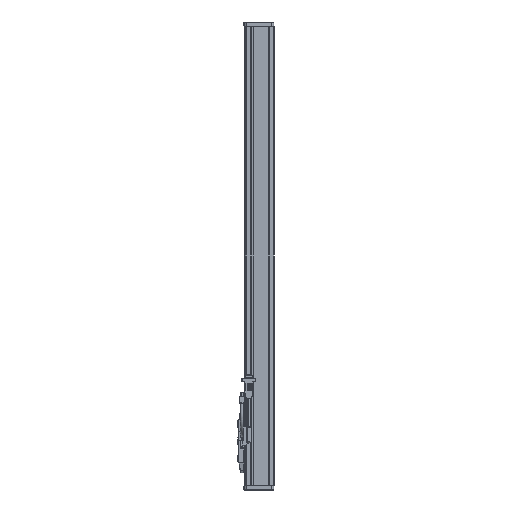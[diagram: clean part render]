
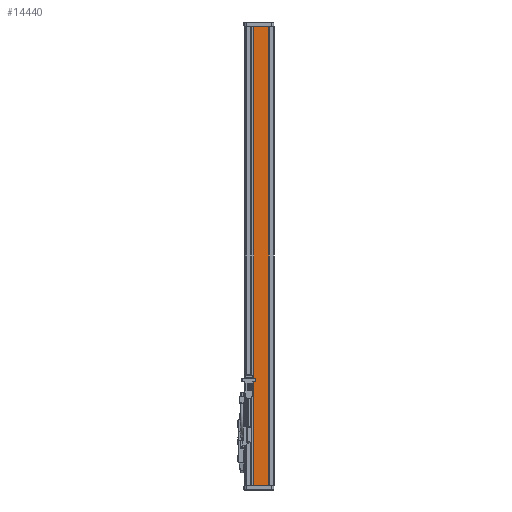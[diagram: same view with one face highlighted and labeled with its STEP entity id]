
A CAD part, left-side view. The second image highlights one B-rep face of the part: STEP entity #14440.
In plain terms, the highlighted planar face has unit normal (-1, 0, 0).
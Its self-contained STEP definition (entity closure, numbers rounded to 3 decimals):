
#144 = PLANE('',#145);
#145 = AXIS2_PLACEMENT_3D('',#146,#147,#148);
#146 = CARTESIAN_POINT('',(-36.5,59.6,990.));
#147 = DIRECTION('',(0.,0.,1.));
#148 = DIRECTION('',(1.,0.,-0.));
#809 = PLANE('',#810);
#810 = AXIS2_PLACEMENT_3D('',#811,#812,#813);
#811 = CARTESIAN_POINT('',(-36.5,59.6,0.));
#812 = DIRECTION('',(0.,0.,1.));
#813 = DIRECTION('',(1.,0.,-0.));
#8995 = VERTEX_POINT('',#8996);
#8996 = CARTESIAN_POINT('',(-40.5,43.6,990.));
#9010 = PLANE('',#9011);
#9011 = AXIS2_PLACEMENT_3D('',#9012,#9013,#9014);
#9012 = CARTESIAN_POINT('',(-40.,43.6,990.));
#9013 = DIRECTION('',(0.,1.,0.));
#9014 = DIRECTION('',(0.,-0.,1.));
#9022 = EDGE_CURVE('',#8995,#9023,#9025,.T.);
#9023 = VERTEX_POINT('',#9024);
#9024 = CARTESIAN_POINT('',(-40.5,11.,990.));
#9025 = SURFACE_CURVE('',#9026,(#9030,#9037),.PCURVE_S1.);
#9026 = LINE('',#9027,#9028);
#9027 = CARTESIAN_POINT('',(-40.5,19.,990.));
#9028 = VECTOR('',#9029,1.);
#9029 = DIRECTION('',(0.,-1.,0.));
#9030 = PCURVE('',#144,#9031);
#9031 = DEFINITIONAL_REPRESENTATION('',(#9032),#9036);
#9032 = LINE('',#9033,#9034);
#9033 = CARTESIAN_POINT('',(-4.,-40.6));
#9034 = VECTOR('',#9035,1.);
#9035 = DIRECTION('',(0.,-1.));
#9036 = ( GEOMETRIC_REPRESENTATION_CONTEXT(2) 
PARAMETRIC_REPRESENTATION_CONTEXT() REPRESENTATION_CONTEXT('2D SPACE',''
  ) );
#9037 = PCURVE('',#9038,#9043);
#9038 = PLANE('',#9039);
#9039 = AXIS2_PLACEMENT_3D('',#9040,#9041,#9042);
#9040 = CARTESIAN_POINT('',(-40.5,19.,990.));
#9041 = DIRECTION('',(1.,0.,-0.));
#9042 = DIRECTION('',(-0.,0.,-1.));
#9043 = DEFINITIONAL_REPRESENTATION('',(#9044),#9048);
#9044 = LINE('',#9045,#9046);
#9045 = CARTESIAN_POINT('',(0.,0.));
#9046 = VECTOR('',#9047,1.);
#9047 = DIRECTION('',(-0.,-1.));
#9048 = ( GEOMETRIC_REPRESENTATION_CONTEXT(2) 
PARAMETRIC_REPRESENTATION_CONTEXT() REPRESENTATION_CONTEXT('2D SPACE',''
  ) );
#9066 = PLANE('',#9067);
#9067 = AXIS2_PLACEMENT_3D('',#9068,#9069,#9070);
#9068 = CARTESIAN_POINT('',(-41.,10.5,990.));
#9069 = DIRECTION('',(0.707,-0.707,0.));
#9070 = DIRECTION('',(0.707,0.707,0.));
#10412 = VERTEX_POINT('',#10413);
#10413 = CARTESIAN_POINT('',(-40.5,11.,0.));
#10434 = EDGE_CURVE('',#10435,#10412,#10437,.T.);
#10435 = VERTEX_POINT('',#10436);
#10436 = CARTESIAN_POINT('',(-40.5,43.6,0.));
#10437 = SURFACE_CURVE('',#10438,(#10442,#10449),.PCURVE_S1.);
#10438 = LINE('',#10439,#10440);
#10439 = CARTESIAN_POINT('',(-40.5,19.,0.));
#10440 = VECTOR('',#10441,1.);
#10441 = DIRECTION('',(0.,-1.,0.));
#10442 = PCURVE('',#809,#10443);
#10443 = DEFINITIONAL_REPRESENTATION('',(#10444),#10448);
#10444 = LINE('',#10445,#10446);
#10445 = CARTESIAN_POINT('',(-4.,-40.6));
#10446 = VECTOR('',#10447,1.);
#10447 = DIRECTION('',(0.,-1.));
#10448 = ( GEOMETRIC_REPRESENTATION_CONTEXT(2) 
PARAMETRIC_REPRESENTATION_CONTEXT() REPRESENTATION_CONTEXT('2D SPACE',''
  ) );
#10449 = PCURVE('',#9038,#10450);
#10450 = DEFINITIONAL_REPRESENTATION('',(#10451),#10455);
#10451 = LINE('',#10452,#10453);
#10452 = CARTESIAN_POINT('',(990.,0.));
#10453 = VECTOR('',#10454,1.);
#10454 = DIRECTION('',(-0.,-1.));
#10455 = ( GEOMETRIC_REPRESENTATION_CONTEXT(2) 
PARAMETRIC_REPRESENTATION_CONTEXT() REPRESENTATION_CONTEXT('2D SPACE',''
  ) );
#12540 = EDGE_CURVE('',#9023,#10412,#12541,.T.);
#12541 = SURFACE_CURVE('',#12542,(#12546,#12553),.PCURVE_S1.);
#12542 = LINE('',#12543,#12544);
#12543 = CARTESIAN_POINT('',(-40.5,11.,990.));
#12544 = VECTOR('',#12545,1.);
#12545 = DIRECTION('',(-0.,-0.,-1.));
#12546 = PCURVE('',#9066,#12547);
#12547 = DEFINITIONAL_REPRESENTATION('',(#12548),#12552);
#12548 = LINE('',#12549,#12550);
#12549 = CARTESIAN_POINT('',(0.707,0.));
#12550 = VECTOR('',#12551,1.);
#12551 = DIRECTION('',(0.,-1.));
#12552 = ( GEOMETRIC_REPRESENTATION_CONTEXT(2) 
PARAMETRIC_REPRESENTATION_CONTEXT() REPRESENTATION_CONTEXT('2D SPACE',''
  ) );
#12553 = PCURVE('',#9038,#12554);
#12554 = DEFINITIONAL_REPRESENTATION('',(#12555),#12559);
#12555 = LINE('',#12556,#12557);
#12556 = CARTESIAN_POINT('',(-0.,-8.));
#12557 = VECTOR('',#12558,1.);
#12558 = DIRECTION('',(1.,-0.));
#12559 = ( GEOMETRIC_REPRESENTATION_CONTEXT(2) 
PARAMETRIC_REPRESENTATION_CONTEXT() REPRESENTATION_CONTEXT('2D SPACE',''
  ) );
#14440 = ADVANCED_FACE('',(#14441),#9038,.F.);
#14441 = FACE_BOUND('',#14442,.T.);
#14442 = EDGE_LOOP('',(#14443,#14444,#14445,#14446));
#14443 = ORIENTED_EDGE('',*,*,#10434,.T.);
#14444 = ORIENTED_EDGE('',*,*,#12540,.F.);
#14445 = ORIENTED_EDGE('',*,*,#9022,.F.);
#14446 = ORIENTED_EDGE('',*,*,#14447,.F.);
#14447 = EDGE_CURVE('',#10435,#8995,#14448,.T.);
#14448 = SURFACE_CURVE('',#14449,(#14453,#14460),.PCURVE_S1.);
#14449 = LINE('',#14450,#14451);
#14450 = CARTESIAN_POINT('',(-40.5,43.6,990.));
#14451 = VECTOR('',#14452,1.);
#14452 = DIRECTION('',(0.,0.,1.));
#14453 = PCURVE('',#9038,#14454);
#14454 = DEFINITIONAL_REPRESENTATION('',(#14455),#14459);
#14455 = LINE('',#14456,#14457);
#14456 = CARTESIAN_POINT('',(0.,24.6));
#14457 = VECTOR('',#14458,1.);
#14458 = DIRECTION('',(-1.,0.));
#14459 = ( GEOMETRIC_REPRESENTATION_CONTEXT(2) 
PARAMETRIC_REPRESENTATION_CONTEXT() REPRESENTATION_CONTEXT('2D SPACE',''
  ) );
#14460 = PCURVE('',#9010,#14461);
#14461 = DEFINITIONAL_REPRESENTATION('',(#14462),#14466);
#14462 = LINE('',#14463,#14464);
#14463 = CARTESIAN_POINT('',(0.,-0.5));
#14464 = VECTOR('',#14465,1.);
#14465 = DIRECTION('',(1.,0.));
#14466 = ( GEOMETRIC_REPRESENTATION_CONTEXT(2) 
PARAMETRIC_REPRESENTATION_CONTEXT() REPRESENTATION_CONTEXT('2D SPACE',''
  ) );
